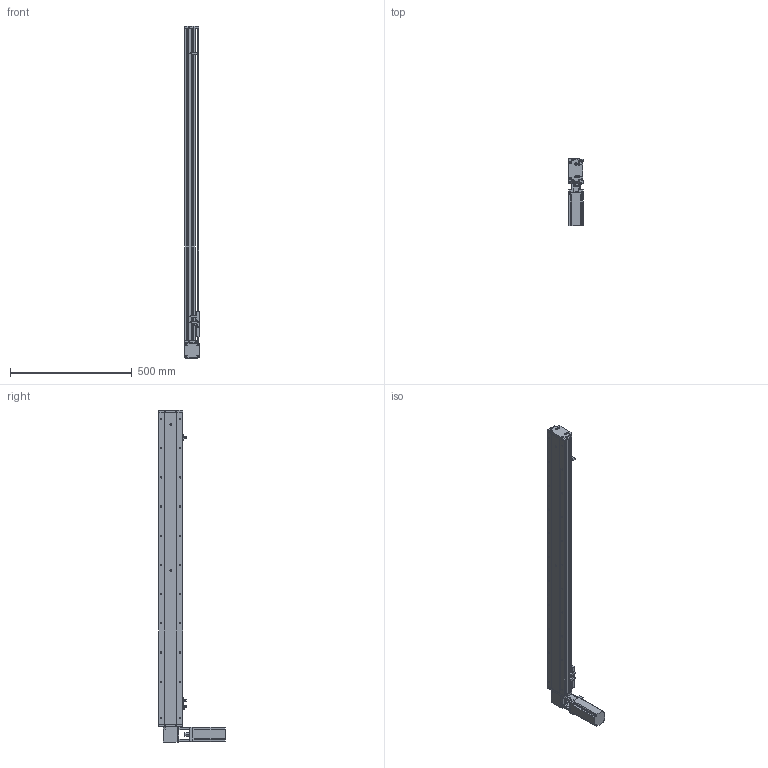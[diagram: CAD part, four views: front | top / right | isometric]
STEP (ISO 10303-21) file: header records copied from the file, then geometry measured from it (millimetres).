
FILE_DESCRIPTION (( 'STEP AP214' ), '1' );
FILE_NAME ('KSD100B-S1100-MLT-CM.STEP', '2019-10-26T05:55:29', ( '微软用户' ), ( '微软中国' ), 'SwSTEP 2.0', 'SolidWorks 2014', '' );
FILE_SCHEMA (( 'AUTOMOTIVE_DESIGN' ));
Length unit declared in the file: millimetre
Products named in the file (12): 100遵傷啣肮祭湍; 100宽底板半封闭同步带1100行程; KSD100B-S1100-MLT-CM; 100宽安装板同步带带电机座400W,86; 100遵鎮湛假蚾啣1 ; 100宽防尘板1100行程-同步带; U倰嫖萇EEㄜSX672; 覜茼え100遵圉猾敕; 台达ECMA－C20604AS伺服电机; 100宽马达安装板同步带右; 100宽同步带安装板半封闭; 100宽马达安装板同步带
Assembly tree (13 placements, depth 2):
  KSD100B-S1100-MLT-CM
    100宽底板半封闭同步带1100行程
    100遵傷啣肮祭湍
    100宽马达安装板同步带
    100宽同步带安装板半封闭
    100宽马达安装板同步带右
    台达ECMA－C20604AS伺服电机
    覜茼え100遵圉猾敕
    U倰嫖萇EEㄜSX672  x3
    100宽防尘板1100行程-同步带
    100遵鎮湛假蚾啣1 
    100宽安装板同步带带电机座400W,86
Bounding box: 61 x 275 x 1365 mm (x, y, z)
Volume: 3022421.8 mm3; surface area: 990802.3 mm2
Topology: 14 solids, 14 shells, 1490 faces, 4191 edges, 2657 vertices
Faces by surface type: cylinder 764, plane 579, cone 147
Entity records: 52515 total; most frequent: CARTESIAN_POINT 10696, DIRECTION 7295, ORIENTED_EDGE 6994, EDGE_CURVE 3497, AXIS2_PLACEMENT_3D 2690, VERTEX_POINT 2281, VECTOR 1915, LINE 1915
